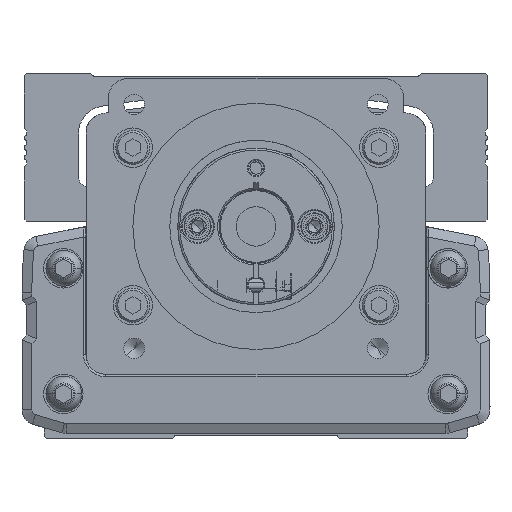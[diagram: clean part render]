
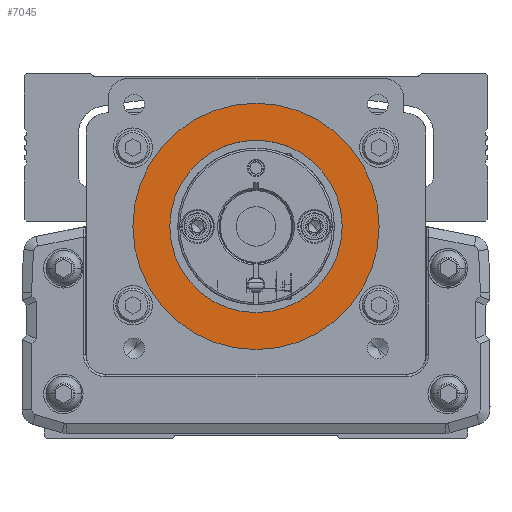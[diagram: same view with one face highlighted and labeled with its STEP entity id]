
A CAD part, front view. The second image highlights one B-rep face of the part: STEP entity #7045.
In plain terms, the highlighted planar face has unit normal (0, -1, 0).
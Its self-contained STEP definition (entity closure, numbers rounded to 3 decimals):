
#7045=ADVANCED_FACE('',(#15414,#15415),#15416,.T.);
#15414=FACE_BOUND('',#26422,.T.);
#15415=FACE_OUTER_BOUND('',#26423,.T.);
#15416=PLANE('',#26424);
#26422=EDGE_LOOP('',(#47508,#47509));
#26423=EDGE_LOOP('',(#47510,#47511));
#26424=AXIS2_PLACEMENT_3D('',#47512,#47513,#47514);
#47508=ORIENTED_EDGE('',*,*,#64640,.T.);
#47509=ORIENTED_EDGE('',*,*,#63300,.T.);
#47510=ORIENTED_EDGE('',*,*,#67258,.F.);
#47511=ORIENTED_EDGE('',*,*,#67259,.F.);
#47512=CARTESIAN_POINT('',(0.,-160.778,0.));
#47513=DIRECTION('',(0.,-1.0,0.));
#47514=DIRECTION('',(1.0,0.,0.));
#63300=EDGE_CURVE('',#77159,#77161,#77163,.T.);
#64640=EDGE_CURVE('',#77161,#77159,#79193,.T.);
#67258=EDGE_CURVE('',#82780,#82781,#82782,.T.);
#67259=EDGE_CURVE('',#82781,#82780,#82783,.T.);
#77159=VERTEX_POINT('',#96245);
#77161=VERTEX_POINT('',#96248);
#77163=CIRCLE('',#96251,17.5);
#79193=CIRCLE('',#99237,17.5);
#82780=VERTEX_POINT('',#104681);
#82781=VERTEX_POINT('',#104682);
#82782=CIRCLE('',#104683,25.0);
#82783=CIRCLE('',#104684,25.0);
#96245=CARTESIAN_POINT('',(-17.5,-160.778,0.));
#96248=CARTESIAN_POINT('',(17.5,-160.778,0.));
#96251=AXIS2_PLACEMENT_3D('',#114826,#114827,#114828);
#99237=AXIS2_PLACEMENT_3D('',#116498,#116499,#116500);
#104681=CARTESIAN_POINT('',(25.,-160.778,0.));
#104682=CARTESIAN_POINT('',(-25.,-160.778,0.));
#104683=AXIS2_PLACEMENT_3D('',#119661,#119662,#119663);
#104684=AXIS2_PLACEMENT_3D('',#119664,#119665,#119666);
#114826=CARTESIAN_POINT('',(0.,-160.778,0.));
#114827=DIRECTION('',(0.,1.0,0.));
#114828=DIRECTION('',(-1.0,0.,0.));
#116498=CARTESIAN_POINT('',(0.,-160.778,0.));
#116499=DIRECTION('',(0.,1.0,0.));
#116500=DIRECTION('',(-1.0,0.,0.));
#119661=CARTESIAN_POINT('',(0.,-160.778,0.));
#119662=DIRECTION('',(0.,1.0,0.));
#119663=DIRECTION('',(1.0,0.,0.));
#119664=CARTESIAN_POINT('',(0.,-160.778,0.));
#119665=DIRECTION('',(0.,1.0,0.));
#119666=DIRECTION('',(1.0,0.,0.));
